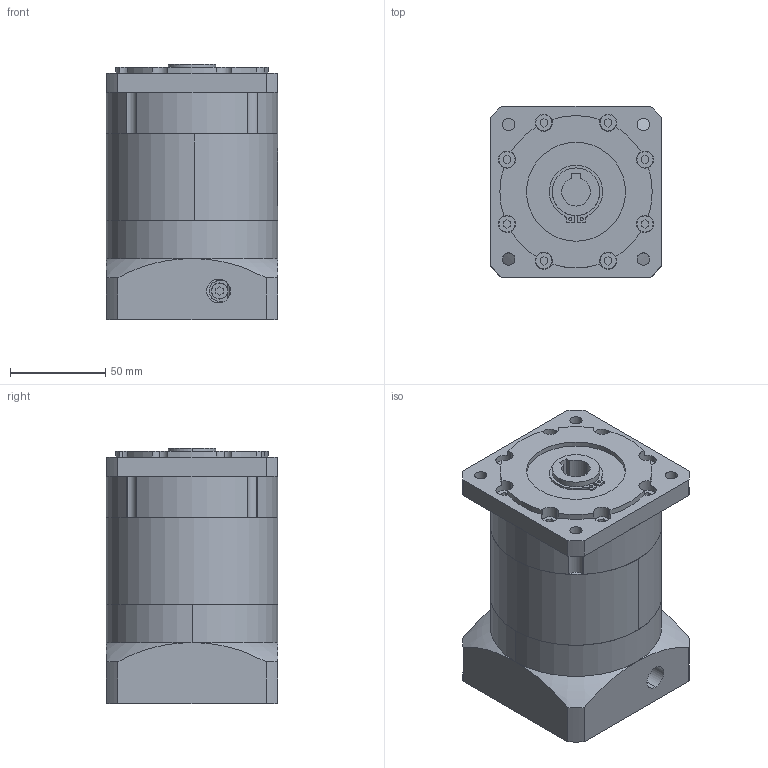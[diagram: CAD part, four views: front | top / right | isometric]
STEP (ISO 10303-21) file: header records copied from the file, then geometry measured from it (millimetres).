
FILE_DESCRIPTION (( 'STEP AP203' ), '1' );
FILE_NAME ('PBF090-L2-19-70-90.STEP', '2022-07-21T09:14:18', ( 'Windows User' ), ( 'P R C' ), 'SwSTEP 2.0', 'SolidWorks 2016', '' );
FILE_SCHEMA (( 'CONFIG_CONTROL_DESIGN' ));
Length unit declared in the file: millimetre
Products named in the file (7): PBF090 狟屳唳梓袧; 囀鞠褒蹟佪 M5℅20; 粣創-6007 35x62x14; PBF090-L2-19-70-90; PBF090 蟀諉啣梓袧; PBF090 內齿圈-优化_二级内齿圈; PBF90 奻屳唳梓袧
Assembly tree (6 placements, depth 2):
  PBF090-L2-19-70-90
    PBF090 蟀諉啣梓袧
    PBF090 內齿圈-优化_二级内齿圈
    PBF90 奻屳唳梓袧
    PBF090 狟屳唳梓袧
    囀鞠褒蹟佪 M5℅20
    粣創-6007 35x62x14
Bounding box: 90 x 90 x 134 mm (x, y, z)
Volume: 795454.4 mm3; surface area: 146261.3 mm2
Topology: 6 solids, 6 shells, 1058 faces, 2855 edges, 1889 vertices
Faces by surface type: plane 542, cylinder 203, bspline 161, sphere 88, torus 54, cone 10
Entity records: 43726 total; most frequent: CARTESIAN_POINT 17407, ORIENTED_EDGE 5694, DIRECTION 4736, EDGE_CURVE 2847, VERTEX_POINT 1889, AXIS2_PLACEMENT_3D 1670, LINE 1396, VECTOR 1396
